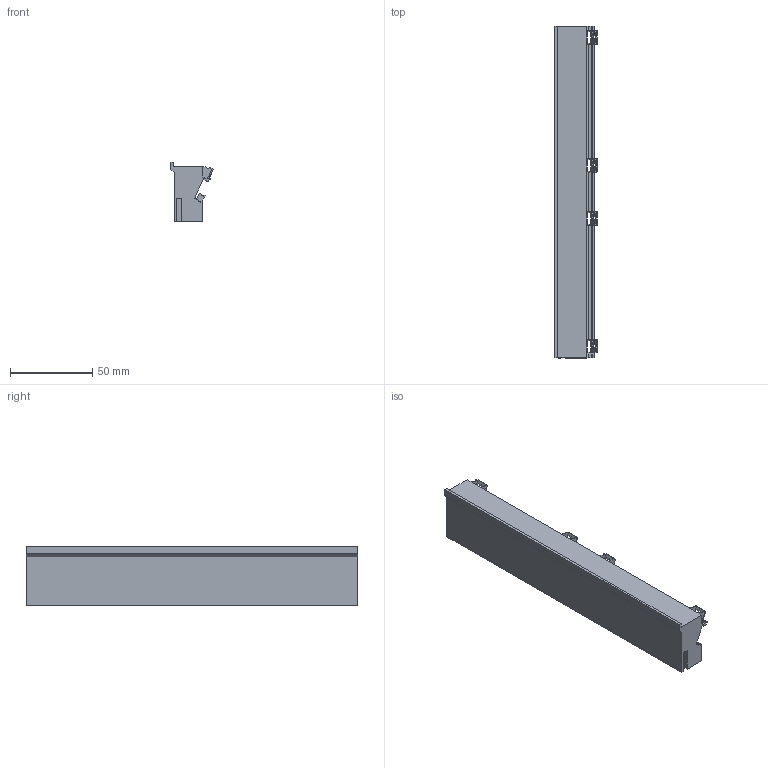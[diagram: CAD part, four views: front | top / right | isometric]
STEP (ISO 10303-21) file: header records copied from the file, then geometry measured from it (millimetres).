
FILE_DESCRIPTION(('Open CASCADE Model'),'2;1');
FILE_NAME('SOLID','2026-10-21T18:57:20',('Author'),('Open CASCADE'), 'Open CASCADE STEP processor 8.0','build123d','Unknown');
FILE_SCHEMA(('AUTOMOTIVE_DESIGN { 1 0 10303 214 1 1 1 1 }'));
Products named in the file (1): SOLID
Bounding box: 25.92 x 202 x 36.5 mm (x, y, z)
Volume: 115552.9 mm3; surface area: 28334.5 mm2
Topology: 1 solids, 1 shells, 608 faces, 1726 edges, 1108 vertices
Faces by surface type: plane 331, cylinder 276, bspline 1
Entity records: 46743 total; most frequent: CARTESIAN_POINT 13902, DIRECTION 5853, ORIENTED_EDGE 3452, PCURVE 3452, DEFINITIONAL_REPRESENTATION 3452, LINE 2630, VECTOR 2630, EDGE_CURVE 1726
